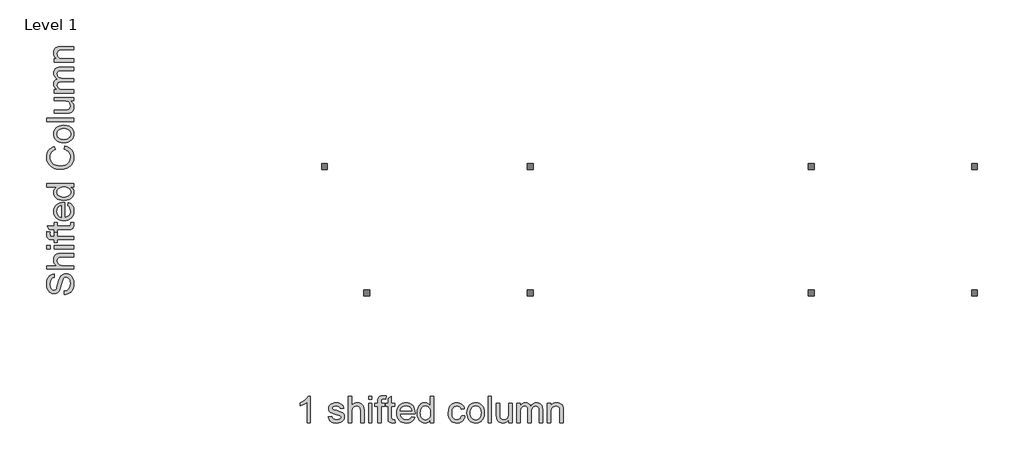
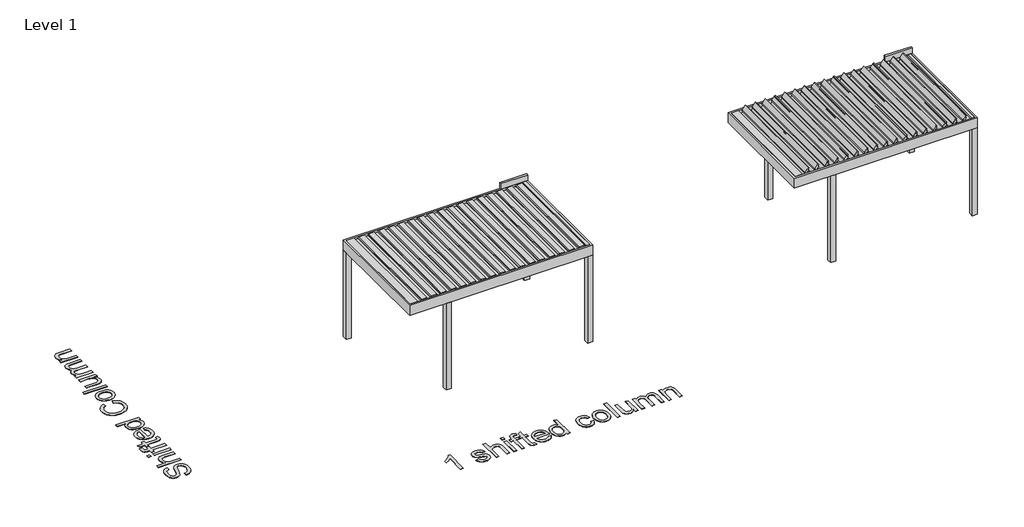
# One storey, part 22 of 47: 4 proxies.
"""IFC4 building model written with IfcOpenShell, lengths in millimetres."""

from ifc_helpers import new_model, si_unit, origin, origin_with_axes, place, context, project, spatial, polyline, outline, extrude, transform, mapped, element, save
from components import generic_models_64de8982, generic_models_5f7e2792

model = new_model("IFC4")

# Units and contexts
model_context = context("Model", 3, world=origin())
ifc_project = project(units=[si_unit("LENGTHUNIT", "METRE", prefix="MILLI")], contexts=[model_context])

# Site, building, storey
site = spatial("IfcSite", under=ifc_project)
building = spatial("IfcBuilding", under=site)
storey = spatial("IfcBuildingStorey", under=building, Name="Level 1", Elevation=0.0)

# Proxies
placement = place(None, origin())
generic_models_shape = generic_models_64de8982(model_context)
element("IfcBuildingElementProxy", 1, Name="Renson_Algarve_Single : Algarve - Single", ObjectType="Renson_Algarve_Single : Algarve - Single", at=placement, inside=storey, context=model_context, shape_type="MappedRepresentation", body=[
    mapped(generic_models_shape, transform((-9296.834943, 54275.3727543, 0.0), x_axis=(1.0, 0.0, 0.0), y_axis=(0.0, 1.0, 0.0), z_axis=(0.0, 0.0, 1.0))),
])
generic_models_2_shape = generic_models_5f7e2792(model_context)
element("IfcBuildingElementProxy", 2, Name="Renson_Algarve_Single : Algarve - Single", ObjectType="Renson_Algarve_Single : Algarve - Single", at=placement, inside=storey, context=model_context, shape_type="MappedRepresentation", body=[
    mapped(generic_models_2_shape, transform((-896.834943, 54275.3727543, 0.0), x_axis=(1.0, 0.0, 0.0), y_axis=(0.0, 1.0, 0.0), z_axis=(0.0, 0.0, 1.0))),
])
element("IfcBuildingElementProxy", 3, Name="500mm Arial", ObjectType="500mm Arial", at=placement, inside=storey, context=model_context, shape_type="SweptSolid", body=[
    extrude(outline(polyline([(-16159.6666242, 53051.4354175), (-16159.6666242, 53114.2206113), (-16124.8251336, 53121.4249671), (-16096.8201167, 53134.454121), (-16074.5939129, 53154.7796013), (-16057.0888612, 53183.8729357), (-16045.7305046, 53219.4348619), (-16041.9443858, 53259.1661174), (-16044.8107997, 53294.1455638), (-16053.4100413, 53324.7717399), (-16067.0216751, 53349.5884461), (-16084.9252655, 53367.139483), (-16105.480672, 53377.5781346), (-16127.047754, 53381.0576851), (-16148.063013, 53378.4518544), (-16166.2271865, 53370.634362), (-16181.7242155, 53354.7541225), (-16194.7380411, 53327.9600505), (-16218.7116845, 53236.5413747), (-16234.5765955, 53176.5306242), (-16249.6750857, 53138.132941), (-16270.7976436, 53106.8782998), (-16296.3960991, 53084.728738), (-16325.9186292, 53071.5309715), (-16358.813411, 53067.1317159), (-16395.5862821, 53072.5733038), (-16429.8759497, 53088.8980673), (-16445.4036356, 53101.0343411), (-16458.9386273, 53115.6768109), (-16480.0305284, 53152.4803388), (-16492.860413, 53196.6568351), (-16497.1370411, 53245.5544836), (-16492.6611435, 53298.5294909), (-16479.2334507, 53344.8826223), (-16457.1298742, 53382.9584088), (-16442.9280963, 53398.2714968), (-16426.6263254, 53411.1013814), (-16389.6235281, 53428.9130014), (-16348.0222058, 53435.9947298), (-16348.0222058, 53373.2095359), (-16368.0564461, 53369.0095498), (-16385.4848556, 53361.6825667), (-16400.3074343, 53351.2285867), (-16412.5241823, 53337.6476097), (-16422.0737857, 53320.6867169), (-16428.894931, 53300.0929894), (-16434.3518473, 53248.0070302), (-16428.9562447, 53194.6947978), (-16422.2117415, 53174.3156681), (-16412.7694369, 53158.1211961), (-16401.4187445, 53145.7818208), (-16388.9490777, 53136.9679813), (-16375.3604365, 53131.6796777), (-16360.6528209, 53129.9169098), (-16336.5258934, 53134.9139735), (-16317.1201182, 53149.9051648), (-16308.4902197, 53163.6700828), (-16299.7683507, 53185.3444637), (-16282.0487013, 53252.4216142), (-16265.2181, 53321.6447429), (-16250.533477, 53363.5219767), (-16227.7554502, 53399.3138292), (-16199.6431344, 53424.2838196), (-16166.503098, 53438.9531141), (-16128.6419093, 53443.842879), (-16089.9376577, 53438.2173502), (-16053.5326686, 53421.3407636), (-16022.2013854, 53393.9028981), (-15998.7182513, 53356.5935325), (-15984.0489568, 53311.7272575), (-15979.1591919, 53261.618664), (-15984.4321672, 53200.1057288), (-15991.0233863, 53173.430452), (-16000.251093, 53149.4759692), (-16012.1306158, 53128.0966603), (-16026.677283, 53109.1469055), (-16043.8910947, 53092.6267046), (-16063.7720508, 53078.5360578), (-16085.676358, 53067.1853654), (-16108.9602226, 53058.8850279), (-16133.6236447, 53053.6350452), (-16159.6666242, 53051.4354175)])), origin_with_axes(), (0.0, 0.0, 1.0), 5.0),
    extrude(outline(polyline([(-15987.0073412, 53530.1725205), (-16489.2888919, 53530.1725205), (-16489.2888919, 53592.9577144), (-16304.6121303, 53592.9577144), (-16330.4711689, 53616.0193169), (-16348.9419108, 53641.9166766), (-16360.0243559, 53670.6497932), (-16363.7185042, 53702.2186669), (-16359.6871307, 53740.1411693), (-16347.5930101, 53772.7293827), (-16328.3865043, 53798.3891518), (-16303.017975, 53815.5263215), (-16268.161156, 53825.1832238), (-16220.4897808, 53828.4021913), (-15987.0073412, 53828.4021913), (-15987.0073412, 53765.6169974), (-16213.9905322, 53765.6169974), (-16253.292592, 53760.6199337), (-16268.2991117, 53754.373604), (-16280.2092913, 53745.6287424), (-16289.2760497, 53734.5922825), (-16295.7523056, 53721.471158), (-16300.9333104, 53688.9749151), (-16297.4384314, 53662.4414262), (-16286.9537946, 53637.5327495), (-16270.4910753, 53616.9007009), (-16249.0619491, 53603.1970966), (-16220.5817513, 53595.5175599), (-16182.9658173, 53592.9577144), (-15987.0073412, 53592.9577144), (-15987.0073412, 53530.1725205)])), origin_with_axes(), (0.0, 0.0, 1.0), 5.0),
    extrude(outline(polyline([(-16426.5036981, 53914.7318328), (-16489.2888919, 53914.7318328), (-16489.2888919, 53977.5170267), (-16426.5036981, 53977.5170267), (-16426.5036981, 53914.7318328)])), origin_with_axes(), (0.0, 0.0, 1.0), 5.0),
    extrude(outline(polyline([(-15987.0073412, 53914.7318328), (-16355.870355, 53914.7318328), (-16355.870355, 53977.5170267), (-15987.0073412, 53977.5170267), (-15987.0073412, 53914.7318328)])), origin_with_axes(), (0.0, 0.0, 1.0), 5.0),
    extrude(outline(polyline([(-15987.0073412, 54087.3911159), (-16293.0851612, 54087.3911159), (-16293.0851612, 54032.4540713), (-16355.870355, 54032.4540713), (-16355.870355, 54087.3911159), (-16393.0264365, 54087.3911159), (-16423.7752399, 54089.0465849), (-16445.3883072, 54094.0129918), (-16466.2656104, 54106.643607), (-16482.7896433, 54126.1413527), (-16493.5501917, 54153.425934), (-16497.1370411, 54189.4170559), (-16490.2699106, 54246.6840198), (-16431.4087913, 54237.4869699), (-16434.3518473, 54201.3119071), (-16431.7460165, 54177.4455626), (-16423.9285241, 54161.7645926), (-16408.9986465, 54153.0733804), (-16385.0556599, 54150.1763097), (-16355.870355, 54150.1763097), (-16355.870355, 54220.8096528), (-16293.0851612, 54220.8096528), (-16293.0851612, 54150.1763097), (-15987.0073412, 54150.1763097), (-15987.0073412, 54087.3911159)])), origin_with_axes(), (0.0, 0.0, 1.0), 5.0),
    extrude(outline(polyline([(-16039.3692118, 54409.1652343), (-15985.1679312, 54417.0133836), (-15979.1591919, 54370.0471155), (-15981.7650227, 54339.9114487), (-15989.5825151, 54317.4399902), (-16001.6306505, 54301.5597507), (-16016.9284101, 54291.1977412), (-16043.2013159, 54285.4955703), (-16088.1748898, 54283.5948467), (-16293.0851612, 54283.5948467), (-16293.0851612, 54236.5059513), (-16355.870355, 54236.5059513), (-16355.870355, 54283.5948467), (-16445.5109345, 54283.5948467), (-16482.4217613, 54346.3800405), (-16355.870355, 54346.3800405), (-16355.870355, 54409.1652343), (-16293.0851612, 54409.1652343), (-16293.0851612, 54346.3800405), (-16090.0142998, 54346.3800405), (-16057.6406842, 54349.6909785), (-16046.1750287, 54360.42087), (-16041.9443858, 54381.8193394), (-16039.3692118, 54409.1652343)])), origin_with_axes(), (0.0, 0.0, 1.0), 5.0),
    extrude(outline(polyline([(-16096.8814304, 54730.2035888), (-16089.0332812, 54791.7625093), (-16064.3775233, 54782.3240369), (-16042.6494929, 54769.5822907), (-16023.8491901, 54753.5372708), (-16007.9766149, 54734.1889771), (-15995.3689923, 54711.7366791), (-15986.3635477, 54686.3796461), (-15980.9602809, 54658.1178783), (-15979.1591919, 54626.9513755), (-15982.2670284, 54587.994205), (-15991.5905377, 54553.2830059), (-16007.1297199, 54522.8177782), (-16028.884575, 54496.5985219), (-16056.2496304, 54475.514285), (-16088.6194139, 54460.4541158), (-16125.9939254, 54451.4180143), (-16168.3731648, 54448.4059805), (-16212.1894433, 54451.4486712), (-16250.8093885, 54460.5767432), (-16284.2330006, 54475.7901965), (-16312.4602796, 54497.0890312), (-16334.8857529, 54523.2393097), (-16350.9039481, 54553.0070945), (-16360.5148652, 54586.3923855), (-16363.7185042, 54623.3951829), (-16360.5225294, 54659.2061958), (-16350.9346049, 54691.5913077), (-16334.9547307, 54720.5505185), (-16312.5829069, 54746.0838283), (-16284.4169416, 54766.9266425), (-16251.0546432, 54781.814367), (-16212.4960116, 54790.7470017), (-16168.7410468, 54793.7245466), (-16151.818475, 54793.3566646), (-16151.818475, 54511.1911743), (-16126.7641783, 54514.8278411), (-16104.8215501, 54522.0590216), (-16085.9905905, 54532.8847157), (-16070.2712994, 54547.3049235), (-16057.8782747, 54564.5225673), (-16049.0261142, 54583.7405695), (-16043.7148179, 54604.95893), (-16041.9443858, 54628.1776488), (-16045.2246669, 54661.5935967), (-16055.0655103, 54689.7365693), (-16072.0800526, 54712.6065667), (-16096.8814304, 54730.2035888)]), holes=[polyline([(-16214.6036688, 54511.1911743), (-16214.6036688, 54730.9393528), (-16247.7743621, 54722.4474101), (-16271.5027508, 54705.8007498), (-16284.3786206, 54688.6789086), (-16293.5756705, 54669.1964913), (-16299.0939004, 54647.3534978), (-16300.9333104, 54623.1499282), (-16295.0625269, 54580.8281703), (-16287.7240475, 54562.4149101), (-16277.4501764, 54545.8333955), (-16264.7160944, 54531.9190255), (-16249.9969825, 54521.5071986), (-16233.2928406, 54514.5979149), (-16214.6036688, 54511.1911743)])]), origin_with_axes(), (0.0, 0.0, 1.0), 5.0),
    extrude(outline(polyline([(-15987.0073412, 55084.1060682), (-16046.2363424, 55084.1060682), (-16016.8900891, 55065.3210938), (-15995.9284795, 55042.5660595), (-15983.3515138, 55015.8409654), (-15979.1591919, 54985.1458115), (-15985.2292449, 54944.5561647), (-16003.4394036, 54907.4000831), (-16032.5174097, 54875.9461726), (-16071.1910044, 54852.4630385), (-16117.8966894, 54837.8397292), (-16171.0709661, 54832.9652928), (-16223.5861209, 54837.4565188), (-16271.0122414, 54850.9301969), (-16292.1424635, 54861.0316233), (-16310.6515264, 54873.3709986), (-16326.5394301, 54887.9483226), (-16339.8061745, 54904.7635955), (-16357.7404218, 54942.7320831), (-16363.7185042, 54984.9005568), (-16359.441876, 55015.6187034), (-16346.6119915, 55042.7806574), (-16326.9456331, 55065.8039389), (-16302.1595837, 55084.1060682), (-16489.2888919, 55084.1060682), (-16489.2888919, 55146.891262), (-15987.0073412, 55146.891262), (-15987.0073412, 55084.1060682)]), holes=[polyline([(-16171.3162207, 54895.7504866), (-16140.8701535, 54897.5209187), (-16114.5244377, 54902.832215), (-16092.2790733, 54911.6843755), (-16074.1340604, 54924.0774003), (-16060.0510777, 54938.8769864), (-16049.9918044, 54954.948831), (-16043.9562404, 54972.2929342), (-16041.9443858, 54990.909296), (-16043.8642699, 55009.6137962), (-16049.6239224, 55026.8544327), (-16059.2233432, 55042.6312053), (-16072.6625324, 55056.9441142), (-16090.0487888, 55068.827469), (-16111.4894113, 55077.3155797), (-16136.9844, 55082.408446), (-16166.5337548, 55084.1060682), (-16198.930363, 55082.3777892), (-16226.7131179, 55077.1929523), (-16249.8820193, 55068.5515575), (-16268.4370675, 55056.4536049), (-16282.6541737, 55041.8264634), (-16292.8092497, 55025.5975025), (-16298.9022952, 55007.7667221), (-16300.9333104, 54988.3341221), (-16298.9827694, 54969.3498783), (-16293.1311464, 54952.0057751), (-16283.3784414, 54936.3018124), (-16269.7246545, 54922.2379903), (-16251.8708814, 54910.6497074), (-16229.5182181, 54902.3723625), (-16202.6666645, 54897.4059556), (-16171.3162207, 54895.7504866)])]), origin_with_axes(), (0.0, 0.0, 1.0), 5.0),
    extrude(outline(polyline([(-16165.5527362, 55798.2876481), (-16149.3659284, 55861.072842), (-16110.3206195, 55848.6491604), (-16076.2033966, 55832.1021348), (-16047.0142595, 55811.4317652), (-16022.7532084, 55786.6380516), (-16003.6808262, 55758.2804811), (-15990.057696, 55726.9185411), (-15981.883818, 55692.5522313), (-15979.1591919, 55655.181552), (-15981.220864, 55616.8949998), (-15987.40588, 55582.3562454), (-15997.7142401, 55551.5652888), (-16012.1459442, 55524.52213), (-16030.4863945, 55500.855055), (-16052.5209931, 55480.1923496), (-16078.2497402, 55462.5340139), (-16107.6726356, 55447.8800477), (-16139.5174208, 55436.3722391), (-16172.5118372, 55428.1523757), (-16206.6558849, 55423.2204577), (-16241.9495638, 55421.5764851), (-16279.8184167, 55423.4350556), (-16315.1887377, 55429.010767), (-16348.0605268, 55438.3036195), (-16378.433784, 55451.313613), (-16405.8065037, 55467.7495076), (-16429.6766803, 55487.3200633), (-16450.0443137, 55510.0252802), (-16466.9094039, 55535.8651582), (-16480.1339952, 55563.9621456), (-16489.5801318, 55593.4386905), (-16495.2478138, 55624.2947928), (-16497.1370411, 55656.5304526), (-16494.6921587, 55692.4411003), (-16487.3575114, 55725.370371), (-16475.1330993, 55755.3182647), (-16458.0189223, 55782.2847813), (-16436.4671688, 55805.8253969), (-16410.9300269, 55825.4955874), (-16381.4074968, 55841.2953526), (-16347.8995784, 55853.2246927), (-16332.939044, 55790.4394989), (-16357.6292908, 55780.5526703), (-16378.7250239, 55768.6731475), (-16396.2262434, 55754.8009306), (-16410.1329493, 55738.9360196), (-16420.7287172, 55720.9864439), (-16428.2971228, 55700.8602331), (-16432.8381662, 55678.5573871), (-16434.3518473, 55654.077906), (-16432.6733857, 55625.9119408), (-16427.6380009, 55600.1525369), (-16419.2456929, 55576.7996944), (-16407.4964617, 55555.8534133), (-16392.9191376, 55537.5781088), (-16376.0425511, 55522.238196), (-16356.8667021, 55509.833675), (-16335.3915906, 55500.3645457), (-16289.436998, 55488.3623956), (-16242.0721912, 55484.3616789), (-16184.0694632, 55489.0981596), (-16133.9148846, 55503.3076017), (-16112.2596642, 55514.0988069), (-16093.5245072, 55527.5264997), (-16077.7094135, 55543.5906801), (-16064.8143831, 55562.2913482), (-16047.6618851, 55603.9693126), (-16041.9443858, 55648.9275581), (-16043.8910947, 55676.2236357), (-16049.7312213, 55701.335414), (-16059.4647658, 55724.2628929), (-16073.091728, 55745.0060725), (-16090.5507944, 55763.0744434), (-16111.7806512, 55777.9774963), (-16136.7812985, 55789.7152312), (-16165.5527362, 55798.2876481)])), origin_with_axes(), (0.0, 0.0, 1.0), 5.0),
    extrude(outline(polyline([(-16171.4388481, 55923.8580358), (-16219.209858, 55927.2532801), (-16260.3743204, 55937.4390128), (-16294.9322353, 55954.415234), (-16322.8836028, 55978.1819438), (-16340.7488722, 56002.1096019), (-16353.5097789, 56028.5204634), (-16361.1663229, 56057.4145285), (-16363.7185042, 56088.791797), (-16360.6106678, 56123.4301861), (-16351.2871585, 56154.749973), (-16335.7479763, 56182.7511578), (-16313.9931212, 56207.4337404), (-16286.7583573, 56227.5791118), (-16254.7794484, 56241.9686627), (-16218.0563947, 56250.6023933), (-16176.589196, 56253.4803035), (-16113.1602087, 56248.3912692), (-16087.1248933, 56242.0299764), (-16064.8756968, 56233.1241664), (-16045.6576947, 56221.7849703), (-16028.7159624, 56208.1235192), (-16014.0504999, 56192.1398129), (-16001.6613073, 56173.8338515), (-15984.7847208, 56133.106249), (-15979.1591919, 56088.791797), (-15982.2555321, 56053.6475701), (-15991.5445524, 56022.0365433), (-16007.0262531, 55993.9587164), (-16028.700634, 55969.4140895), (-16056.1998131, 55949.483316), (-16089.1559085, 55935.2470492), (-16127.5689202, 55926.7052892), (-16171.4388481, 55923.8580358)]), holes=[polyline([(-16171.5614754, 55986.6432297), (-16141.107744, 55988.459647), (-16114.7390356, 55993.9088991), (-16092.4553501, 56002.9909858), (-16074.2566877, 56015.7059073), (-16060.1200556, 56031.1722795), (-16050.0224613, 56048.5087185), (-16043.9639046, 56067.7152243), (-16041.9443858, 56088.791797), (-16043.975401, 56109.7610707), (-16050.0684465, 56128.8909345), (-16060.2235224, 56146.1813882), (-16074.4406287, 56161.632432), (-16092.8194, 56174.3473535), (-16115.4594711, 56183.4294402), (-16142.360842, 56188.8786923), (-16173.5235127, 56190.6951096), (-16203.0115539, 56188.867196), (-16228.6904836, 56183.383455), (-16250.5603018, 56174.2438867), (-16268.6210085, 56161.448491), (-16282.7576406, 56145.9399657), (-16292.8552349, 56128.6610082), (-16298.9137915, 56109.6116186), (-16300.9333104, 56088.791797), (-16298.9214557, 56067.7152243), (-16292.8858917, 56048.5087185), (-16282.8266184, 56031.1722795), (-16268.7436358, 56015.7059073), (-16250.5986228, 56002.9909858), (-16228.3532584, 55993.9088991), (-16202.0075426, 55988.459647), (-16171.5614754, 55986.6432297)])]), origin_with_axes(), (0.0, 0.0, 1.0), 5.0),
    extrude(outline(polyline([(-15987.0073412, 56324.1136466), (-16489.2888919, 56324.1136466), (-16489.2888919, 56386.8988404), (-15987.0073412, 56386.8988404), (-15987.0073412, 56324.1136466)])), origin_with_axes(), (0.0, 0.0, 1.0), 5.0),
    extrude(outline(polyline([(-15987.0073412, 56716.5211081), (-16050.4056717, 56716.5211081), (-16019.2353368, 56693.8043949), (-15996.9708119, 56667.3475481), (-15983.6120969, 56637.1505676), (-15979.1591919, 56603.2134536), (-15982.2861889, 56572.6332627), (-15991.6671798, 56544.1683933), (-16005.7693229, 56520.2867205), (-16023.0597767, 56503.4561192), (-16044.0597073, 56492.1284194), (-16069.2902808, 56484.7554511), (-16127.6608907, 56481.0766312), (-16355.870355, 56481.0766312), (-16355.870355, 56543.861825), (-16157.2140776, 56543.861825), (-16093.2026104, 56547.6632723), (-16071.8501263, 56556.8143369), (-16055.6173333, 56572.495307), (-16045.3626227, 56593.6638501), (-16041.9443858, 56619.277634), (-16045.4392647, 56646.3629459), (-16055.9239016, 56671.7008183), (-16072.4326061, 56692.59345), (-16093.9996881, 56706.3430396), (-16123.5375466, 56713.976591), (-16163.9585808, 56716.5211081), (-16355.870355, 56716.5211081), (-16355.870355, 56779.3063019), (-15987.0073412, 56779.3063019), (-15987.0073412, 56716.5211081)])), origin_with_axes(), (0.0, 0.0, 1.0), 5.0),
    extrude(outline(polyline([(-15987.0073412, 56865.6359435), (-16355.870355, 56865.6359435), (-16355.870355, 56928.4211373), (-16295.1698258, 56928.4211373), (-16323.0522153, 56947.3057464), (-16344.8952088, 56971.5859581), (-16359.0126804, 57000.4340379), (-16363.7185042, 57033.0222513), (-16358.9207099, 57067.940384), (-16344.5273268, 57095.9300724), (-16321.4887169, 57116.8380325), (-16290.7552419, 57130.51098), (-16322.6766691, 57153.3963058), (-16345.4776886, 57179.500599), (-16359.1583003, 57208.8238597), (-16363.7185042, 57241.3660879), (-16361.8216127, 57266.5008588), (-16356.1309381, 57288.5622822), (-16346.6464804, 57307.5503581), (-16333.3682396, 57323.4650865), (-16316.1429316, 57336.0458843), (-16294.8172722, 57345.0321684), (-16269.3912614, 57350.4239389), (-16239.8648992, 57352.2211958), (-15987.0073412, 57352.2211958), (-15987.0073412, 57289.4360019), (-16212.8868862, 57289.4360019), (-16244.202841, 57287.9798023), (-16265.3100705, 57283.6112037), (-16279.7647672, 57275.4258293), (-16291.1231238, 57262.5193026), (-16298.4807637, 57245.9186276), (-16300.9333104, 57226.6508081), (-16299.3621477, 57208.8583487), (-16294.6486596, 57192.6370519), (-16286.7928462, 57177.9869179), (-16275.7947074, 57164.9079465), (-16261.3323464, 57154.1512303), (-16243.0838666, 57146.4678615), (-16221.049268, 57141.8578403), (-16195.2285504, 57140.3211665), (-15987.0073412, 57140.3211665), (-15987.0073412, 57077.5359727), (-16219.8766441, 57077.5359727), (-16255.3772566, 57073.903138), (-16280.6998006, 57063.0046339), (-16289.5519612, 57054.5778369), (-16295.8749329, 57043.8287849), (-16300.9333104, 57015.3639155), (-16297.5610588, 56991.1756743), (-16287.4443039, 56968.8881568), (-16270.8283004, 56950.494057), (-16247.9583031, 56937.9860692), (-16216.228481, 56930.8123703), (-16173.0330034, 56928.4211373), (-15987.0073412, 56928.4211373), (-15987.0073412, 56865.6359435)])), origin_with_axes(), (0.0, 0.0, 1.0), 5.0),
    extrude(outline(polyline([(-15987.0073412, 57446.3989865), (-16355.870355, 57446.3989865), (-16355.870355, 57509.1841804), (-16304.3668757, 57509.1841804), (-16330.3332132, 57530.996517), (-16348.8805971, 57557.1927807), (-16360.0090274, 57587.7729716), (-16363.7185042, 57622.7370895), (-16360.729463, 57653.6851624), (-16351.7623394, 57682.0274044), (-16337.9361077, 57705.6638226), (-16320.3697425, 57722.4944239), (-16299.1092288, 57733.9140942), (-16274.2005521, 57741.3177193), (-16213.5000229, 57744.6286573), (-15987.0073412, 57744.6286573), (-15987.0073412, 57681.8434634), (-16205.038737, 57681.8434634), (-16237.504323, 57680.0347103), (-16260.5889182, 57674.6084509), (-16277.1282796, 57664.5989949), (-16289.9581642, 57649.0406522), (-16298.1895238, 57629.0983824), (-16300.9333104, 57605.9371451), (-16299.3928045, 57586.8724271), (-16294.771287, 57569.164274), (-16287.0687577, 57552.8126857), (-16276.2852167, 57537.8176623), (-16261.1943907, 57525.290514), (-16240.5700063, 57516.3425508), (-16214.4120636, 57510.973773), (-16182.7205626, 57509.1841804), (-15987.0073412, 57509.1841804), (-15987.0073412, 57446.3989865)])), origin_with_axes(), (0.0, 0.0, 1.0), 5.0),
])
element("IfcBuildingElementProxy", 4, Name="500mm Arial", ObjectType="500mm Arial", at=placement, inside=storey, context=model_context, shape_type="SweptSolid", body=[
    extrude(outline(polyline([(-11507.4021249, 50625.3727543), (-11570.1873188, 50625.3727543), (-11570.1873188, 51016.7991972), (-11596.3989109, 50995.5999972), (-11629.6615746, 50974.4314541), (-11695.7577064, 50942.7322888), (-11695.7577064, 51002.0839174), (-11646.4461907, 51028.9086462), (-11603.725894, 51060.8224093), (-11570.049363, 51094.7595233), (-11547.8691444, 51127.6543051), (-11507.4021249, 51127.6543051), (-11507.4021249, 50625.3727543)])), origin_with_axes(), (0.0, 0.0, 1.0), 5.0),
    extrude(outline(polyline([(-11169.931708, 50735.2468435), (-11107.1465142, 50743.0949928), (-11097.2443571, 50716.2396071), (-11078.0838365, 50696.4966067), (-11049.5423251, 50684.3565009), (-11011.4971954, 50680.3097989), (-10973.9119182, 50684.0192757), (-10947.4857282, 50695.1477061), (-10931.8507435, 50711.2732002), (-10926.6390819, 50729.9738683), (-10931.8814003, 50745.9767351), (-10947.6083556, 50758.1781546), (-11012.2329594, 50776.081745), (-11069.5305801, 50792.6517632), (-11106.7786322, 50806.7998916), (-11130.7062903, 50822.235607), (-11148.0427293, 50842.6683861), (-11158.5733514, 50866.7953136), (-11162.0835588, 50893.3134741), (-11159.2631301, 50917.6396711), (-11150.8018443, 50940.0958012), (-11137.4661219, 50959.7928163), (-11120.022384, 50975.8416684), (-11102.685945, 50985.9430948), (-11080.1071875, 50994.4197091), (-11054.0028943, 51000.1678653), (-11026.0898479, 51002.0839174), (-10985.2242896, 50999.0029057), (-10949.6930202, 50989.7598705), (-10921.1208519, 50975.2591885), (-10901.1325969, 50956.4052363), (-10887.888845, 50931.8031279), (-10879.5501865, 50900.0579774), (-10942.3353803, 50892.2098281), (-10950.2601716, 50911.968157), (-10965.9411417, 50926.8520493), (-10989.5315746, 50936.187055), (-11021.1847546, 50939.2987235), (-11057.2371901, 50936.3250107), (-11081.2721472, 50927.4038723), (-11094.7918105, 50914.5280025), (-11099.2983649, 50899.6900954), (-11097.4282981, 50890.033193), (-11091.8180977, 50881.4186229), (-11082.222509, 50873.7237579), (-11068.3962773, 50867.5617345), (-11014.317624, 50854.1953553), (-10922.1631842, 50824.6421684), (-10897.8216589, 50810.5093684), (-10879.3662455, 50791.1649068), (-10867.7319774, 50766.54747), (-10863.853888, 50736.5957442), (-10868.4064277, 50705.6323429), (-10882.0640468, 50676.5083516), (-10904.3055791, 50651.5077044), (-10934.6098584, 50632.9143352), (-10971.2141169, 50621.3720376), (-11012.3555867, 50617.5246051), (-11046.1470808, 50619.3793435), (-11075.6619467, 50624.9435586), (-11100.9001844, 50634.2172506), (-11121.861794, 50647.2004193), (-11138.9836352, 50663.8317512), (-11152.7025679, 50684.0499325), (-11163.0185922, 50707.8549633), (-11169.931708, 50735.2468435)])), origin_with_axes(), (0.0, 0.0, 1.0), 5.0),
    extrude(outline(polyline([(-10793.2205449, 50625.3727543), (-10793.2205449, 51127.6543051), (-10730.4353511, 51127.6543051), (-10730.4353511, 50942.9775435), (-10707.3737485, 50968.836582), (-10681.4763889, 50987.3073239), (-10652.7432722, 50998.389769), (-10621.1743985, 51002.0839174), (-10583.2518962, 50998.0525438), (-10550.6636828, 50985.9584232), (-10525.0039136, 50966.7519174), (-10507.866744, 50941.3833882), (-10498.2098416, 50906.5265691), (-10494.9908742, 50858.8551939), (-10494.9908742, 50625.3727543), (-10557.776068, 50625.3727543), (-10557.776068, 50852.3559453), (-10562.7731318, 50891.6580051), (-10569.0194615, 50906.6645249), (-10577.7643231, 50918.5747045), (-10588.800783, 50927.6414628), (-10601.9219074, 50934.1177188), (-10634.4181504, 50939.2987235), (-10660.9516393, 50935.8038446), (-10685.860316, 50925.3192077), (-10706.4923646, 50908.8564884), (-10720.1959689, 50887.4273622), (-10727.8755055, 50858.9471644), (-10730.4353511, 50821.3312304), (-10730.4353511, 50625.3727543), (-10793.2205449, 50625.3727543)])), origin_with_axes(), (0.0, 0.0, 1.0), 5.0),
    extrude(outline(polyline([(-10408.6612326, 51064.8691112), (-10408.6612326, 51127.6543051), (-10345.8760388, 51127.6543051), (-10345.8760388, 51064.8691112), (-10408.6612326, 51064.8691112)])), origin_with_axes(), (0.0, 0.0, 1.0), 5.0),
    extrude(outline(polyline([(-10408.6612326, 50625.3727543), (-10408.6612326, 50994.2357681), (-10345.8760388, 50994.2357681), (-10345.8760388, 50625.3727543), (-10408.6612326, 50625.3727543)])), origin_with_axes(), (0.0, 0.0, 1.0), 5.0),
    extrude(outline(polyline([(-10236.0019496, 50625.3727543), (-10236.0019496, 50931.4505743), (-10290.9389942, 50931.4505743), (-10290.9389942, 50994.2357681), (-10236.0019496, 50994.2357681), (-10236.0019496, 51031.3918496), (-10234.3464806, 51062.1406531), (-10229.3800737, 51083.7537203), (-10216.7494585, 51104.6310235), (-10197.2517128, 51121.1550565), (-10169.9671314, 51131.9156048), (-10133.9760096, 51135.5024543), (-10076.7090457, 51128.6353237), (-10085.9060955, 51069.7742045), (-10122.0811584, 51072.7172604), (-10145.9475028, 51070.1114296), (-10161.6284729, 51062.2939372), (-10170.319685, 51047.3640596), (-10173.2167557, 51023.4210731), (-10173.2167557, 50994.2357681), (-10102.5834127, 50994.2357681), (-10102.5834127, 50931.4505743), (-10173.2167557, 50931.4505743), (-10173.2167557, 50625.3727543), (-10236.0019496, 50625.3727543)])), origin_with_axes(), (0.0, 0.0, 1.0), 5.0),
    extrude(outline(polyline([(-9914.2278311, 50677.7346249), (-9906.3796819, 50623.5333443), (-9953.3459499, 50617.5246051), (-9983.4816167, 50620.1304359), (-10005.9530753, 50627.9479283), (-10021.8333147, 50639.9960636), (-10032.1953242, 50655.2938232), (-10037.8974952, 50681.5667291), (-10039.7982188, 50726.540303), (-10039.7982188, 50931.4505743), (-10086.8871142, 50931.4505743), (-10086.8871142, 50994.2357681), (-10039.7982188, 50994.2357681), (-10039.7982188, 51083.8763476), (-9977.013025, 51120.7871745), (-9977.013025, 50994.2357681), (-9914.2278311, 50994.2357681), (-9914.2278311, 50931.4505743), (-9977.013025, 50931.4505743), (-9977.013025, 50728.379713), (-9973.702087, 50696.0060974), (-9962.9721955, 50684.5404419), (-9941.5737261, 50680.3097989), (-9914.2278311, 50677.7346249)])), origin_with_axes(), (0.0, 0.0, 1.0), 5.0),
    extrude(outline(polyline([(-9593.1894767, 50735.2468435), (-9531.6305561, 50727.3986943), (-9541.0690286, 50702.7429364), (-9553.8107748, 50681.0149061), (-9569.8557947, 50662.2146033), (-9589.2040884, 50646.342028), (-9611.6563864, 50633.7344055), (-9637.0134193, 50624.7289608), (-9665.2751872, 50619.325694), (-9696.44169, 50617.5246051), (-9735.3988604, 50620.6324415), (-9770.1100595, 50629.9559508), (-9800.5752872, 50645.495133), (-9826.7945436, 50667.2499881), (-9847.8787805, 50694.6150436), (-9862.9389496, 50726.9848271), (-9871.9750511, 50764.3593385), (-9874.987085, 50806.7385779), (-9871.9443943, 50850.5548564), (-9862.8163223, 50889.1748017), (-9847.602869, 50922.5984138), (-9826.3040343, 50950.8256927), (-9800.1537558, 50973.251166), (-9770.385971, 50989.2693612), (-9737.00068, 50998.8802783), (-9699.9978826, 51002.0839174), (-9664.1868696, 50998.8879425), (-9631.8017577, 50989.300018), (-9602.8425469, 50973.3201439), (-9577.3092372, 50950.94832), (-9556.4664229, 50922.7823548), (-9541.5786984, 50889.4200563), (-9532.6460637, 50850.8614247), (-9529.6685188, 50807.1064599), (-9530.0364008, 50790.1838881), (-9812.2018911, 50790.1838881), (-9808.5652243, 50765.1295914), (-9801.3340439, 50743.1869633), (-9790.5083497, 50724.3560036), (-9776.0881419, 50708.6367125), (-9758.8704981, 50696.2436878), (-9739.652496, 50687.3915273), (-9718.4341355, 50682.080231), (-9695.2154167, 50680.3097989), (-9661.7994688, 50683.59008), (-9633.6564961, 50693.4309234), (-9610.7864988, 50710.4454657), (-9593.1894767, 50735.2468435)]), holes=[polyline([(-9812.2018911, 50852.969082), (-9592.4537127, 50852.969082), (-9600.9456554, 50886.1397752), (-9617.5923157, 50909.8681639), (-9634.7141569, 50922.7440337), (-9654.1965742, 50931.9410836), (-9676.0395677, 50937.4593135), (-9700.2431373, 50939.2987235), (-9742.5648951, 50933.42794), (-9760.9781554, 50926.0894606), (-9777.5596699, 50915.8155895), (-9791.47404, 50903.0815075), (-9801.8858669, 50888.3623956), (-9808.7951506, 50871.6582538), (-9812.2018911, 50852.969082)])]), origin_with_axes(), (0.0, 0.0, 1.0), 5.0),
    extrude(outline(polyline([(-9239.2869973, 50625.3727543), (-9239.2869973, 50684.6017555), (-9258.0719717, 50655.2555022), (-9280.8270059, 50634.2938927), (-9307.5521, 50621.716927), (-9338.247254, 50617.5246051), (-9378.8369008, 50623.594658), (-9415.9929823, 50641.8048168), (-9447.4468929, 50670.8828228), (-9470.9300269, 50709.5564175), (-9485.5533362, 50756.2621025), (-9490.4277727, 50809.4363792), (-9485.9365467, 50861.951534), (-9472.4628686, 50909.3776546), (-9462.3614421, 50930.5078767), (-9450.0220669, 50949.0169396), (-9435.4447428, 50964.9048432), (-9418.62947, 50978.1715877), (-9380.6609824, 50996.1058349), (-9338.4925087, 51002.0839174), (-9307.7743621, 50997.8072892), (-9280.6124081, 50984.9774046), (-9257.5891266, 50965.3110463), (-9239.2869973, 50940.5249968), (-9239.2869973, 51127.6543051), (-9176.5018035, 51127.6543051), (-9176.5018035, 50625.3727543), (-9239.2869973, 50625.3727543)]), holes=[polyline([(-9427.6425788, 50809.6816339), (-9425.8721467, 50779.2355667), (-9420.5608504, 50752.8898509), (-9411.7086899, 50730.6444865), (-9399.3156652, 50712.4994735), (-9384.5160791, 50698.4164909), (-9368.4442345, 50688.3572176), (-9351.1001312, 50682.3216536), (-9332.4837694, 50680.3097989), (-9313.7792692, 50682.2296831), (-9296.5386328, 50687.9893356), (-9280.7618602, 50697.5887564), (-9266.4489513, 50711.0279455), (-9254.5655964, 50728.4142019), (-9246.0774858, 50749.8548244), (-9240.9846194, 50775.3498131), (-9239.2869973, 50804.8991679), (-9241.0152763, 50837.2957761), (-9246.2001131, 50865.078531), (-9254.8415079, 50888.2474325), (-9266.9394606, 50906.8024806), (-9281.566602, 50921.0195869), (-9297.795563, 50931.1746628), (-9315.6263434, 50937.2677083), (-9335.0589434, 50939.2987235), (-9354.0431872, 50937.3481825), (-9371.3872904, 50931.4965595), (-9387.0912531, 50921.7438546), (-9401.1550752, 50908.0900676), (-9412.743358, 50890.2362945), (-9421.0207029, 50867.8836312), (-9425.9871099, 50841.0320777), (-9427.6425788, 50809.6816339)])]), origin_with_axes(), (0.0, 0.0, 1.0), 5.0),
    extrude(outline(polyline([(-8650.675805, 50758.7912912), (-8587.8906112, 50750.943142), (-8594.7194207, 50721.3171451), (-8605.3956628, 50695.1017208), (-8619.9193374, 50672.2968692), (-8638.2904445, 50652.9025903), (-8659.7348992, 50637.4247217), (-8683.4786163, 50626.3691014), (-8709.5215958, 50619.7357291), (-8737.8638379, 50617.5246051), (-8773.0770426, 50620.6094489), (-8804.6497484, 50629.8639803), (-8832.5819553, 50645.2881994), (-8856.8736633, 50666.8821061), (-8876.5361895, 50694.2394974), (-8890.5808511, 50726.9541702), (-8899.0076481, 50765.0261246), (-8901.8165804, 50808.4553606), (-8897.018786, 50864.3274386), (-8882.625403, 50912.7499062), (-8871.7728841, 50933.7000194), (-8858.406505, 50951.8526966), (-8842.5262655, 50967.2079378), (-8824.1321658, 50979.765743), (-8783.1286517, 50996.5043738), (-8738.7222292, 51002.0839174), (-8710.8666644, 51000.1678653), (-8685.6705798, 50994.4197091), (-8663.1339755, 50984.8394488), (-8643.2568515, 50971.4270844), (-8626.3764328, 50954.4891842), (-8612.8299448, 50934.3323166), (-8602.6173873, 50910.9564815), (-8595.7387604, 50884.3616789), (-8658.5239543, 50876.5135297), (-8669.9129677, 50903.9054099), (-8687.6479455, 50923.5411114), (-8710.7478692, 50935.3593205), (-8738.2317199, 50939.2987235), (-8759.5650435, 50937.3596788), (-8778.8060383, 50931.5425448), (-8795.9547042, 50921.8473214), (-8811.0110413, 50908.2740086), (-8823.2699423, 50890.5083739), (-8832.0263002, 50868.2361848), (-8837.280115, 50841.4574412), (-8839.0313866, 50810.1721432), (-8837.318436, 50778.4154964), (-8832.1795844, 50751.3263524), (-8823.6148317, 50728.9047112), (-8811.6241779, 50711.1505728), (-8796.866745, 50697.6577343), (-8780.0016547, 50688.0199924), (-8761.0289073, 50682.2373473), (-8739.9485025, 50680.3097989), (-8707.4369312, 50685.1229217), (-8680.780815, 50699.56229), (-8670.0011061, 50710.4837867), (-8661.3903681, 50723.9957858), (-8650.675805, 50758.7912912)])), origin_with_axes(), (0.0, 0.0, 1.0), 5.0),
    extrude(outline(polyline([(-8548.649865, 50809.8042612), (-8545.2546208, 50857.5752711), (-8535.068888, 50898.7397336), (-8518.0926668, 50933.2976485), (-8494.3259571, 50961.2490159), (-8470.398299, 50979.1142853), (-8443.9874374, 50991.875192), (-8415.0933724, 50999.531736), (-8383.7161039, 51002.0839174), (-8349.0777148, 50998.9760809), (-8317.7579278, 50989.6525716), (-8289.756743, 50974.1133894), (-8265.0741604, 50952.3585343), (-8244.9287891, 50925.1237704), (-8230.5392381, 50893.1448615), (-8221.9055075, 50856.4218078), (-8219.0275974, 50814.9546092), (-8224.1166316, 50751.5256218), (-8230.4779245, 50725.4903064), (-8239.3837344, 50703.2411099), (-8250.7229305, 50684.0231078), (-8264.3843817, 50667.0813755), (-8280.3680879, 50652.4159131), (-8298.6740493, 50640.0267204), (-8339.4016519, 50623.1501339), (-8383.7161039, 50617.5246051), (-8418.8603307, 50620.6209452), (-8450.4713576, 50629.9099656), (-8478.5491844, 50645.3916662), (-8503.0938113, 50667.0660471), (-8523.0245848, 50694.5652262), (-8537.2608516, 50727.5213216), (-8545.8026117, 50765.9343333), (-8548.649865, 50809.8042612)]), holes=[polyline([(-8485.8646712, 50809.9268885), (-8484.0482538, 50779.4731571), (-8478.5990018, 50753.1044487), (-8469.516915, 50730.8207633), (-8456.8019936, 50712.6221008), (-8441.3356214, 50698.4854687), (-8423.9991823, 50688.3878744), (-8404.7926765, 50682.3293178), (-8383.7161039, 50680.3097989), (-8362.7468301, 50682.3408141), (-8343.6169664, 50688.4338596), (-8326.3265126, 50698.5889356), (-8310.8754688, 50712.8060418), (-8298.1605474, 50731.1848132), (-8289.0784606, 50753.8248843), (-8283.6292085, 50780.7262552), (-8281.8127912, 50811.8889259), (-8283.6407049, 50841.376967), (-8289.1244459, 50867.0558967), (-8298.2640142, 50888.9257149), (-8311.0594098, 50906.9864216), (-8326.5679352, 50921.1230537), (-8343.8468926, 50931.220648), (-8362.8962822, 50937.2792047), (-8383.7161039, 50939.2987235), (-8404.7926765, 50937.2868689), (-8423.9991823, 50931.2513049), (-8441.3356214, 50921.1920316), (-8456.8019936, 50907.1090489), (-8469.516915, 50888.964036), (-8478.5990018, 50866.7186716), (-8484.0482538, 50840.3729558), (-8485.8646712, 50809.9268885)])]), origin_with_axes(), (0.0, 0.0, 1.0), 5.0),
    extrude(outline(polyline([(-8148.3942543, 50625.3727543), (-8148.3942543, 51127.6543051), (-8085.6090604, 51127.6543051), (-8085.6090604, 50625.3727543), (-8148.3942543, 50625.3727543)])), origin_with_axes(), (0.0, 0.0, 1.0), 5.0),
    extrude(outline(polyline([(-7755.9867928, 50625.3727543), (-7755.9867928, 50688.7710848), (-7778.703506, 50657.6007499), (-7805.1603528, 50635.336225), (-7835.3573332, 50621.9775101), (-7869.2944473, 50617.5246051), (-7899.8746381, 50620.651602), (-7928.3395075, 50630.0325929), (-7952.2211804, 50644.1347361), (-7969.0517816, 50661.4251898), (-7980.3794814, 50682.4251204), (-7987.7524497, 50707.6556939), (-7991.4312697, 50766.0263038), (-7991.4312697, 50994.2357681), (-7928.6460758, 50994.2357681), (-7928.6460758, 50795.5794907), (-7924.8446285, 50731.5680236), (-7915.6935639, 50710.2155394), (-7900.0125939, 50693.9827464), (-7878.8440507, 50683.7280358), (-7853.2302668, 50680.3097989), (-7826.1449549, 50683.8046779), (-7800.8070825, 50694.2893147), (-7779.9144509, 50710.7980193), (-7766.1648613, 50732.3651012), (-7758.5313099, 50761.9029598), (-7755.9867928, 50802.323994), (-7755.9867928, 50994.2357681), (-7693.2015989, 50994.2357681), (-7693.2015989, 50625.3727543), (-7755.9867928, 50625.3727543)])), origin_with_axes(), (0.0, 0.0, 1.0), 5.0),
    extrude(outline(polyline([(-7606.8719574, 50625.3727543), (-7606.8719574, 50994.2357681), (-7544.0867635, 50994.2357681), (-7544.0867635, 50933.5352389), (-7525.2021545, 50961.4176285), (-7500.9219428, 50983.2606219), (-7472.073863, 50997.3780935), (-7439.4856496, 51002.0839174), (-7404.5675169, 50997.286123), (-7376.5778284, 50982.8927399), (-7355.6698683, 50959.85413), (-7341.9969209, 50929.120655), (-7319.1115951, 50961.0420823), (-7293.0073018, 50983.8431018), (-7263.6840411, 50997.5237135), (-7231.141813, 51002.0839174), (-7206.0070421, 51000.1870258), (-7183.9456187, 50994.4963512), (-7164.9575428, 50985.0118935), (-7149.0428144, 50971.7336528), (-7136.4620166, 50954.5083448), (-7127.4757324, 50933.1826854), (-7122.0839619, 50907.7566745), (-7120.2867051, 50878.2303123), (-7120.2867051, 50625.3727543), (-7183.0718989, 50625.3727543), (-7183.0718989, 50851.2522993), (-7184.5280985, 50882.5682542), (-7188.8966972, 50903.6754837), (-7197.0820716, 50918.1301804), (-7209.9885983, 50929.488537), (-7226.5892733, 50936.8461769), (-7245.8570928, 50939.2987235), (-7263.6495522, 50937.7275608), (-7279.8708489, 50933.0140728), (-7294.520983, 50925.1582593), (-7307.5999543, 50914.1601205), (-7318.3566706, 50899.6977596), (-7326.0400393, 50881.4492798), (-7330.6500606, 50859.4146811), (-7332.1867343, 50833.5939636), (-7332.1867343, 50625.3727543), (-7394.9719282, 50625.3727543), (-7394.9719282, 50858.2420572), (-7398.6047629, 50893.7426698), (-7409.503267, 50919.0652138), (-7417.9300639, 50927.9173743), (-7428.679116, 50934.2403461), (-7457.1439853, 50939.2987235), (-7481.3322265, 50935.9264719), (-7503.6197441, 50925.809717), (-7522.0138438, 50909.1937136), (-7534.5218317, 50886.3237162), (-7541.6955306, 50854.5938941), (-7544.0867635, 50811.3984165), (-7544.0867635, 50625.3727543), (-7606.8719574, 50625.3727543)])), origin_with_axes(), (0.0, 0.0, 1.0), 5.0),
    extrude(outline(polyline([(-7026.1089143, 50625.3727543), (-7026.1089143, 50994.2357681), (-6963.3237205, 50994.2357681), (-6963.3237205, 50942.7322888), (-6941.5113839, 50968.6986263), (-6915.3151201, 50987.2460102), (-6884.7349293, 50998.3744406), (-6849.7708113, 51002.0839174), (-6818.8227385, 50999.0948762), (-6790.4804964, 50990.1277525), (-6766.8440782, 50976.3015209), (-6750.0134769, 50958.7351556), (-6738.5938067, 50937.474642), (-6731.1901815, 50912.5659652), (-6727.8792436, 50851.865436), (-6727.8792436, 50625.3727543), (-6790.6644374, 50625.3727543), (-6790.6644374, 50843.4041501), (-6792.4731906, 50875.8697362), (-6797.89945, 50898.9543314), (-6807.9089059, 50915.4936927), (-6823.4672487, 50928.3235773), (-6843.4095185, 50936.554937), (-6866.5707558, 50939.2987235), (-6885.6354737, 50937.7582177), (-6903.3436269, 50933.1367001), (-6919.6952151, 50925.4341708), (-6934.6902385, 50914.6506298), (-6947.2173869, 50899.5598038), (-6956.16535, 50878.9354195), (-6961.5341279, 50852.7774768), (-6963.3237205, 50821.0859757), (-6963.3237205, 50625.3727543), (-7026.1089143, 50625.3727543)])), origin_with_axes(), (0.0, 0.0, 1.0), 5.0),
])

save(model, "model.ifc")
